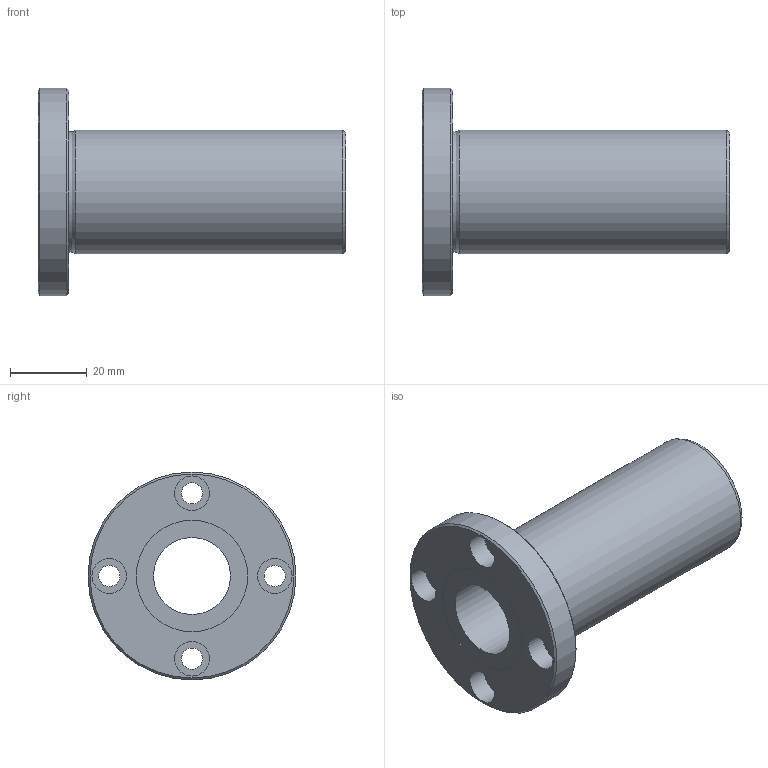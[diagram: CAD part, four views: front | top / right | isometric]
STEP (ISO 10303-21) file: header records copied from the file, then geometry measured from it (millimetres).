
FILE_DESCRIPTION((''),'2;1');
FILE_NAME('D:\製品 (図面)\カタログ用3D\リニアベアリング関連\STEP形式\LFD\LFD20.stp','2010-06-03T09:20:58',('Tsuchiya'),(''),'Autodesk Inventor 10','Autodesk Inventor 10','');
FILE_SCHEMA(('AUTOMOTIVE_DESIGN { 1 0 10303 214 1 1 1 1 }'));
Length unit declared in the file: millimetre
Products named in the file (1): LFD20
Bounding box: 80 x 54 x 54 mm (x, y, z)
Volume: 49304.5 mm3; surface area: 18069.2 mm2
Topology: 1 solids, 1 shells, 26 faces, 47 edges, 30 vertices
Faces by surface type: cylinder 13, plane 9, cone 2, torus 1, bspline 1
Full cylindrical faces by diameter (mm): 5.5 x4, 9 x4, 20 x1, 29 x2, 32 x1, 54 x1
Entity records: 665 total; most frequent: CARTESIAN_POINT 149, DIRECTION 112, ORIENTED_EDGE 60, EDGE_LOOP 60, AXIS2_PLACEMENT_3D 56, FACE_BOUND 34, VERTEX_POINT 30, CIRCLE 30
